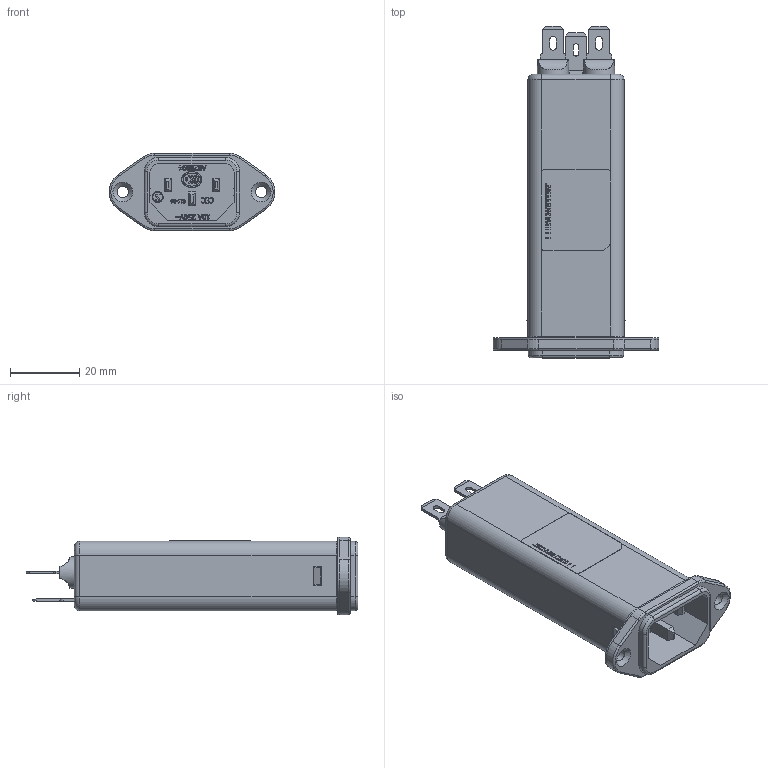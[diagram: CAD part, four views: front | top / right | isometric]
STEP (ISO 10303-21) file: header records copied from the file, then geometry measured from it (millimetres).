
FILE_DESCRIPTION(/* description */ ('naming raw material'),/* implementation_level */ '2;1');
FILE_NAME(/* name */ 'C:\SapWorkDir\Inventor\P01\ConvertTempPath\193008_IPT_000.ipt.stp',/* time_stamp */ '2018-07-03T09:10:36+07:00',/* author */ ('Eakchai.Yodchai'),/* organization */ ('Schaffner Thailand Ltd.'),/* preprocessor_version */ 'ST-DEVELOPER v16.5',/* originating_system */ 'Autodesk Inventor 2017',/* authorisation */ '');
FILE_SCHEMA (('AUTOMOTIVE_DESIGN { 1 0 10303 214 3 1 1 }'));
Products named in the file (1): 193008_IPT_000
Bounding box: 47.95 x 96 x 22.4 mm (x, y, z)
Volume: 13195.9 mm3; surface area: 32240.3 mm2
Topology: 1 solids, 1 shells, 1862 faces, 5231 edges, 3426 vertices
Faces by surface type: plane 1350, bspline 313, cylinder 167, torus 30, cone 2
Full cylindrical faces by diameter (mm): 2.835 x1, 3.15 x1, 3.3 x2, 4 x2, 9 x2, 9.5 x2
Entity records: 63473 total; most frequent: CARTESIAN_POINT 15297, ORIENTED_EDGE 10430, DIRECTION 8070, EDGE_CURVE 5213, LINE 4188, VECTOR 4188, VERTEX_POINT 3420, EDGE_LOOP 2009
